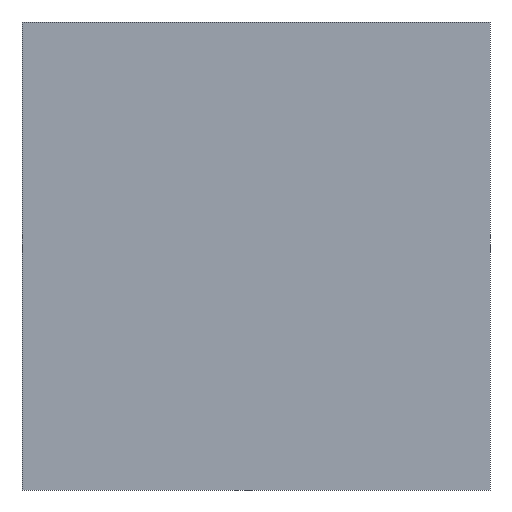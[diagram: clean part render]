
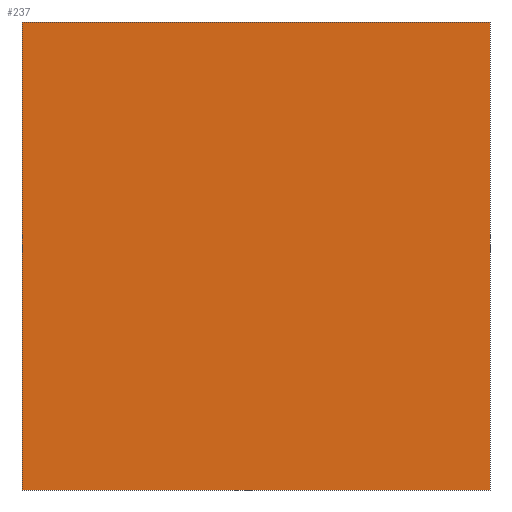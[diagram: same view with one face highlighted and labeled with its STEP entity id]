
A CAD part, front view. The second image highlights one B-rep face of the part: STEP entity #237.
In plain terms, the highlighted planar face has unit normal (0, -1, 0).
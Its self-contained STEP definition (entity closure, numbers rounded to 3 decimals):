
#21 = EDGE_CURVE('',#22,#24,#26,.T.);
#22 = VERTEX_POINT('',#23);
#23 = CARTESIAN_POINT('',(1600.,-210.,-250.));
#24 = VERTEX_POINT('',#25);
#25 = CARTESIAN_POINT('',(1600.,-210.,-230.));
#26 = SURFACE_CURVE('',#27,(#31,#43),.PCURVE_S1.);
#27 = LINE('',#28,#29);
#28 = CARTESIAN_POINT('',(1600.,-210.,-250.));
#29 = VECTOR('',#30,1.);
#30 = DIRECTION('',(0.,0.,1.));
#31 = PCURVE('',#32,#37);
#32 = PLANE('',#33);
#33 = AXIS2_PLACEMENT_3D('',#34,#35,#36);
#34 = CARTESIAN_POINT('',(1600.,-210.,-250.));
#35 = DIRECTION('',(1.,0.,0.));
#36 = DIRECTION('',(0.,0.,1.));
#37 = DEFINITIONAL_REPRESENTATION('',(#38),#42);
#38 = LINE('',#39,#40);
#39 = CARTESIAN_POINT('',(0.,0.));
#40 = VECTOR('',#41,1.);
#41 = DIRECTION('',(1.,0.));
#42 = ( GEOMETRIC_REPRESENTATION_CONTEXT(2) 
PARAMETRIC_REPRESENTATION_CONTEXT() REPRESENTATION_CONTEXT('2D SPACE',''
  ) );
#43 = PCURVE('',#44,#49);
#44 = PLANE('',#45);
#45 = AXIS2_PLACEMENT_3D('',#46,#47,#48);
#46 = CARTESIAN_POINT('',(1600.,-210.,-250.));
#47 = DIRECTION('',(0.,1.,0.));
#48 = DIRECTION('',(0.,0.,1.));
#49 = DEFINITIONAL_REPRESENTATION('',(#50),#54);
#50 = LINE('',#51,#52);
#51 = CARTESIAN_POINT('',(0.,0.));
#52 = VECTOR('',#53,1.);
#53 = DIRECTION('',(1.,0.));
#54 = ( GEOMETRIC_REPRESENTATION_CONTEXT(2) 
PARAMETRIC_REPRESENTATION_CONTEXT() REPRESENTATION_CONTEXT('2D SPACE',''
  ) );
#72 = PLANE('',#73);
#73 = AXIS2_PLACEMENT_3D('',#74,#75,#76);
#74 = CARTESIAN_POINT('',(1600.,-210.,-250.));
#75 = DIRECTION('',(0.,0.,1.));
#76 = DIRECTION('',(1.,0.,0.));
#126 = PLANE('',#127);
#127 = AXIS2_PLACEMENT_3D('',#128,#129,#130);
#128 = CARTESIAN_POINT('',(1600.,-210.,-230.));
#129 = DIRECTION('',(0.,0.,1.));
#130 = DIRECTION('',(1.,0.,0.));
#141 = EDGE_CURVE('',#142,#144,#146,.T.);
#142 = VERTEX_POINT('',#143);
#143 = CARTESIAN_POINT('',(1620.,-210.,-250.));
#144 = VERTEX_POINT('',#145);
#145 = CARTESIAN_POINT('',(1620.,-210.,-230.));
#146 = SURFACE_CURVE('',#147,(#151,#163),.PCURVE_S1.);
#147 = LINE('',#148,#149);
#148 = CARTESIAN_POINT('',(1620.,-210.,-250.));
#149 = VECTOR('',#150,1.);
#150 = DIRECTION('',(0.,0.,1.));
#151 = PCURVE('',#152,#157);
#152 = PLANE('',#153);
#153 = AXIS2_PLACEMENT_3D('',#154,#155,#156);
#154 = CARTESIAN_POINT('',(1620.,-210.,-250.));
#155 = DIRECTION('',(1.,0.,0.));
#156 = DIRECTION('',(0.,0.,1.));
#157 = DEFINITIONAL_REPRESENTATION('',(#158),#162);
#158 = LINE('',#159,#160);
#159 = CARTESIAN_POINT('',(0.,0.));
#160 = VECTOR('',#161,1.);
#161 = DIRECTION('',(1.,0.));
#162 = ( GEOMETRIC_REPRESENTATION_CONTEXT(2) 
PARAMETRIC_REPRESENTATION_CONTEXT() REPRESENTATION_CONTEXT('2D SPACE',''
  ) );
#163 = PCURVE('',#44,#164);
#164 = DEFINITIONAL_REPRESENTATION('',(#165),#169);
#165 = LINE('',#166,#167);
#166 = CARTESIAN_POINT('',(0.,20.));
#167 = VECTOR('',#168,1.);
#168 = DIRECTION('',(1.,0.));
#169 = ( GEOMETRIC_REPRESENTATION_CONTEXT(2) 
PARAMETRIC_REPRESENTATION_CONTEXT() REPRESENTATION_CONTEXT('2D SPACE',''
  ) );
#237 = ADVANCED_FACE('',(#238),#44,.F.);
#238 = FACE_BOUND('',#239,.F.);
#239 = EDGE_LOOP('',(#240,#261,#262,#283));
#240 = ORIENTED_EDGE('',*,*,#241,.F.);
#241 = EDGE_CURVE('',#22,#142,#242,.T.);
#242 = SURFACE_CURVE('',#243,(#247,#254),.PCURVE_S1.);
#243 = LINE('',#244,#245);
#244 = CARTESIAN_POINT('',(1600.,-210.,-250.));
#245 = VECTOR('',#246,1.);
#246 = DIRECTION('',(1.,0.,0.));
#247 = PCURVE('',#44,#248);
#248 = DEFINITIONAL_REPRESENTATION('',(#249),#253);
#249 = LINE('',#250,#251);
#250 = CARTESIAN_POINT('',(0.,0.));
#251 = VECTOR('',#252,1.);
#252 = DIRECTION('',(0.,1.));
#253 = ( GEOMETRIC_REPRESENTATION_CONTEXT(2) 
PARAMETRIC_REPRESENTATION_CONTEXT() REPRESENTATION_CONTEXT('2D SPACE',''
  ) );
#254 = PCURVE('',#72,#255);
#255 = DEFINITIONAL_REPRESENTATION('',(#256),#260);
#256 = LINE('',#257,#258);
#257 = CARTESIAN_POINT('',(0.,0.));
#258 = VECTOR('',#259,1.);
#259 = DIRECTION('',(1.,0.));
#260 = ( GEOMETRIC_REPRESENTATION_CONTEXT(2) 
PARAMETRIC_REPRESENTATION_CONTEXT() REPRESENTATION_CONTEXT('2D SPACE',''
  ) );
#261 = ORIENTED_EDGE('',*,*,#21,.T.);
#262 = ORIENTED_EDGE('',*,*,#263,.T.);
#263 = EDGE_CURVE('',#24,#144,#264,.T.);
#264 = SURFACE_CURVE('',#265,(#269,#276),.PCURVE_S1.);
#265 = LINE('',#266,#267);
#266 = CARTESIAN_POINT('',(1600.,-210.,-230.));
#267 = VECTOR('',#268,1.);
#268 = DIRECTION('',(1.,0.,0.));
#269 = PCURVE('',#44,#270);
#270 = DEFINITIONAL_REPRESENTATION('',(#271),#275);
#271 = LINE('',#272,#273);
#272 = CARTESIAN_POINT('',(20.,0.));
#273 = VECTOR('',#274,1.);
#274 = DIRECTION('',(0.,1.));
#275 = ( GEOMETRIC_REPRESENTATION_CONTEXT(2) 
PARAMETRIC_REPRESENTATION_CONTEXT() REPRESENTATION_CONTEXT('2D SPACE',''
  ) );
#276 = PCURVE('',#126,#277);
#277 = DEFINITIONAL_REPRESENTATION('',(#278),#282);
#278 = LINE('',#279,#280);
#279 = CARTESIAN_POINT('',(0.,0.));
#280 = VECTOR('',#281,1.);
#281 = DIRECTION('',(1.,0.));
#282 = ( GEOMETRIC_REPRESENTATION_CONTEXT(2) 
PARAMETRIC_REPRESENTATION_CONTEXT() REPRESENTATION_CONTEXT('2D SPACE',''
  ) );
#283 = ORIENTED_EDGE('',*,*,#141,.F.);
